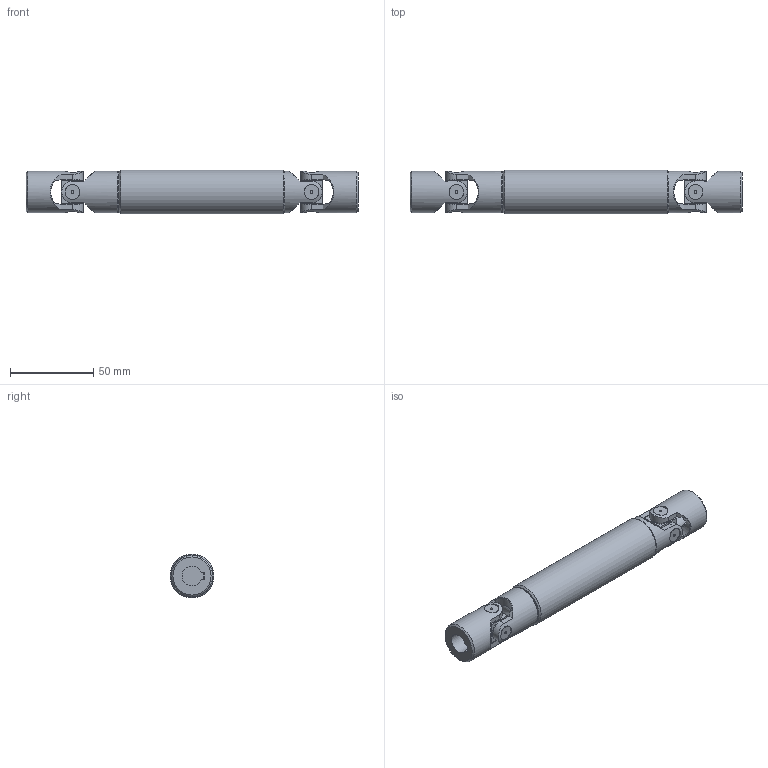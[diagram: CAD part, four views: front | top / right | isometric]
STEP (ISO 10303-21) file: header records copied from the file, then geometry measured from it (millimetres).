
FILE_DESCRIPTION(/* description */ (''),/* implementation_level */ '2;1');
FILE_NAME(/* name */ '\\SRV2016\Societa\Stefano\Disegni 3D\00Catalogo 3D\03Trasmissioni standard GA\!04GA20\!04GA20_SG0A1220.stp',/* time_stamp */ '2022-02-15T10:45:09+01:00',/* author */ ('acquisti'),/* organization */ (''),/* preprocessor_version */ 'ST-DEVELOPER v15.6',/* originating_system */ 'Autodesk Inventor 2015',/* authorisation */ '');
FILE_SCHEMA (('AUTOMOTIVE_DESIGN { 1 0 10303 214 3 1 1 }'));
Length unit declared in the file: millimetre
Products named in the file (5): !04GA20 LCI; !04GA20 LAI; 04G MOC; 04G SFE; !04GA20_SG0A1220
Assembly tree (6 placements, depth 2):
  !04GA20_SG0A1220
    !04GA20 LCI
    !04GA20 LAI
    04G MOC  x2
    04G SFE  x2
Bounding box: 200 x 26.5 x 26.5 mm (x, y, z)
Volume: 79155.7 mm3; surface area: 35612.8 mm2
Topology: 6 solids, 6 shells, 228 faces, 559 edges, 367 vertices
Faces by surface type: plane 106, cylinder 93, cone 25, torus 4
Full cylindrical faces by diameter (mm): 1.5 x8, 12 x1, 12.5 x8, 13 x2, 21 x1, 25 x4, 26.5 x1
Entity records: 5789 total; most frequent: CARTESIAN_POINT 1679, DIRECTION 823, ORIENTED_EDGE 820, EDGE_CURVE 410, AXIS2_PLACEMENT_3D 335, VERTEX_POINT 286, EDGE_LOOP 224, FACE_OUTER_BOUND 176
